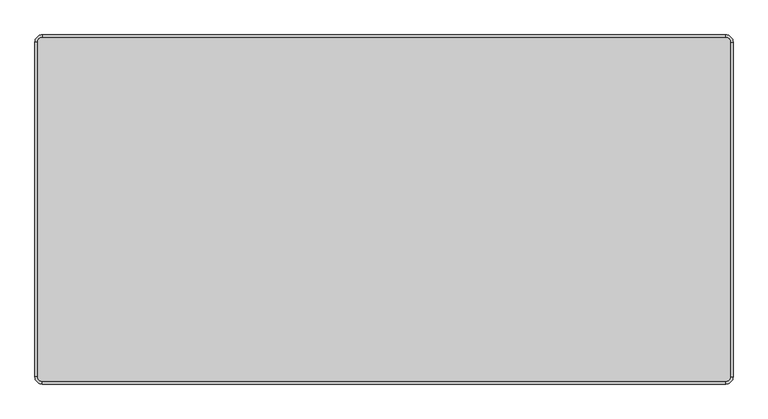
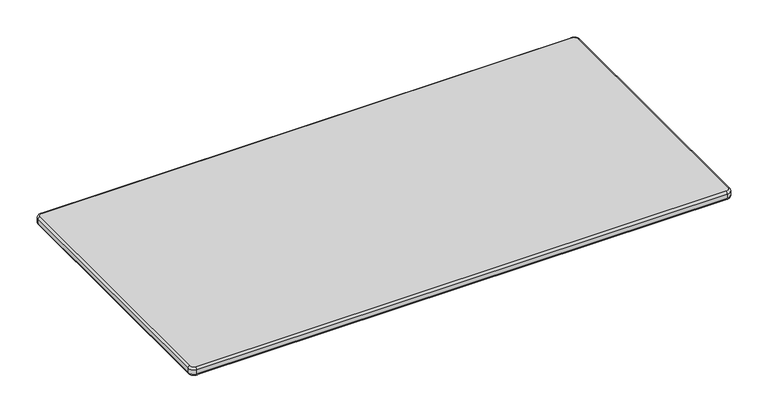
"""IFC4 building model written with IfcOpenShell, lengths in millimetres: furniture geometry, SSL-Childcraft_Outdoor-Table-Rectangle : 2161362."""

from ifc_helpers import new_model, si_unit, point, frame, origin, place, context, project, spatial, circle_curve, ellipse_curve, trimmed, source, transform, mapped, element, save
from ifc_brep_helpers import plane_surface, cylinder_surface, revolved_surface, advanced_brep


def furniture_5d3cc5c7(model_context):
    return source(origin(), model_context, "Body", "AdvancedBrep", [
        advanced_brep(
        [(604.8375, 292.1, 609.6), (596.9, 300.0375, 609.6), (-596.9, 300.0375, 609.6), (-604.8375, 292.1, 609.6), (-604.8375, -292.1, 609.6), (-596.9, -300.0375, 609.6), (596.9, -300.0375, 609.6), (604.8375, -292.1, 609.6), (596.9, 300.0375, 590.55), (604.8375, 292.1, 590.55), (604.8375, -292.1, 590.55), (596.9, -300.0375, 590.55), (-596.9, -300.0375, 590.55), (-604.8375, -292.1, 590.55), (-604.8375, 292.1, 590.55), (-596.9, 300.0375, 590.55), (609.6, 292.1, 595.3125), (609.6, 292.1, 604.8375), (609.6, -292.1, 604.8375), (609.6, -292.1, 595.3125), (596.9, -304.8, 595.3125), (596.9, -304.8, 604.8375), (-596.9, -304.8, 604.8375), (-596.9, -304.8, 595.3125), (-609.6, -292.1, 604.8375), (-609.6, -292.1, 595.3125), (-609.6, 292.1, 604.8375), (-609.6, 292.1, 595.3125), (-596.9, 304.8, 595.3125), (-596.9, 304.8, 604.8375), (596.9, 304.8, 604.8375), (596.9, 304.8, 595.3125)],
        [
            (0, 1, circle_curve(frame((596.9, 292.1, 609.6), z_axis=(0.0, 0.0, 1.0), x_axis=(0.0, 1.0, 0.0)), 7.9375)),
            (1, 2),
            (2, 3, circle_curve(frame((-596.9, 292.1, 609.6), z_axis=(0.0, 0.0, 1.0), x_axis=(-1.0, 0.0, 0.0)), 7.9375)),
            (3, 4),
            (4, 5, circle_curve(frame((-596.9, -292.1, 609.6), z_axis=(0.0, 0.0, 1.0), x_axis=(0.0, -1.0, 0.0)), 7.9375)),
            (5, 6),
            (6, 7, circle_curve(frame((596.9, -292.1, 609.6), z_axis=(0.0, 0.0, 1.0), x_axis=(1.0, 0.0, 0.0)), 7.9375)),
            (7, 0),
            (8, 9, circle_curve(frame((596.9, 292.1, 590.55), z_axis=(0.0, 0.0, -1.0), x_axis=(0.0, 1.0, 0.0)), 7.9375)),
            (9, 10),
            (10, 11, circle_curve(frame((596.9, -292.1, 590.55), z_axis=(0.0, 0.0, -1.0), x_axis=(1.0, 0.0, 0.0)), 7.9375)),
            (11, 12),
            (12, 13, circle_curve(frame((-596.9, -292.1, 590.55), z_axis=(0.0, 0.0, -1.0), x_axis=(0.0, -1.0, 0.0)), 7.9375)),
            (13, 14),
            (14, 15, circle_curve(frame((-596.9, 292.1, 590.55), z_axis=(0.0, 0.0, -1.0), x_axis=(-1.0, 0.0, 0.0)), 7.9375)),
            (15, 8),
            (16, 17),
            (17, 18),
            (18, 19),
            (19, 16),
            (20, 21),
            (21, 22),
            (22, 23),
            (23, 20),
            (22, 24, circle_curve(frame((-596.9, -292.1, 604.8375), z_axis=(0.0, 0.0, -1.0), x_axis=(0.0, -1.0, 0.0)), 12.7)),
            (24, 25),
            (25, 23, circle_curve(frame((-596.9, -292.1, 595.3125), z_axis=(0.0, 0.0, 1.0), x_axis=(0.0, -1.0, 0.0)), 12.7)),
            (24, 26),
            (26, 27),
            (27, 25),
            (28, 29),
            (29, 30),
            (30, 31),
            (31, 28),
            (17, 30, circle_curve(frame((596.9, 292.1, 604.8375), z_axis=(0.0, 0.0, 1.0), x_axis=(0.0, 1.0, 0.0)), 12.7)),
            (30, 1, circle_curve(frame((596.9, 300.0375, 604.8375), z_axis=(1.0, 0.0, 0.0), x_axis=(0.0, 1.0, 0.0)), 4.7625)),
            (0, 17, circle_curve(frame((604.8375, 292.1, 604.8375), z_axis=(0.0, 1.0, 0.0), x_axis=(1.0, 0.0, 0.0)), 4.7625)),
            (16, 31, circle_curve(frame((596.9, 292.1, 595.3125), z_axis=(0.0, 0.0, 1.0), x_axis=(0.0, 1.0, 0.0)), 12.7)),
            (16, 9, circle_curve(frame((604.8375, 292.1, 595.3125), z_axis=(0.0, 1.0, 0.0), x_axis=(1.0, 0.0, 0.0)), 4.7625)),
            (8, 31, circle_curve(frame((596.9, 300.0375, 595.3125), z_axis=(1.0, 0.0, 0.0), x_axis=(0.0, 1.0, 0.0)), 4.7625)),
            (7, 18, circle_curve(frame((604.8375, -292.1, 604.8375), z_axis=(0.0, 1.0, 0.0), x_axis=(1.0, 0.0, 0.0)), 4.7625)),
            (19, 10, circle_curve(frame((604.8375, -292.1, 595.3125), z_axis=(0.0, 1.0, 0.0), x_axis=(1.0, 0.0, 0.0)), 4.7625)),
            (6, 21, circle_curve(frame((596.9, -300.0375, 604.8375), z_axis=(1.0, 0.0, 0.0), x_axis=(0.0, -1.0, 0.0)), 4.7625)),
            (21, 18, circle_curve(frame((596.9, -292.1, 604.8375), z_axis=(0.0, 0.0, 1.0), x_axis=(1.0, 0.0, 0.0)), 12.7)),
            (20, 19, circle_curve(frame((596.9, -292.1, 595.3125), z_axis=(0.0, 0.0, 1.0), x_axis=(1.0, 0.0, 0.0)), 12.7)),
            (20, 11, circle_curve(frame((596.9, -300.0375, 595.3125), z_axis=(1.0, 0.0, 0.0), x_axis=(0.0, -1.0, 0.0)), 4.7625)),
            (5, 22, circle_curve(frame((-596.9, -300.0375, 604.8375), z_axis=(1.0, 0.0, 0.0), x_axis=(0.0, -1.0, 0.0)), 4.7625)),
            (23, 12, circle_curve(frame((-596.9, -300.0375, 595.3125), z_axis=(1.0, 0.0, 0.0), x_axis=(0.0, -1.0, 0.0)), 4.7625)),
            (4, 24, circle_curve(frame((-604.8375, -292.1, 604.8375), z_axis=(0.0, -1.0, 0.0), x_axis=(-1.0, 0.0, 0.0)), 4.7625)),
            (25, 13, circle_curve(frame((-604.8375, -292.1, 595.3125), z_axis=(0.0, -1.0, 0.0), x_axis=(-1.0, 0.0, 0.0)), 4.7625)),
            (3, 26, circle_curve(frame((-604.8375, 292.1, 604.8375), z_axis=(0.0, -1.0, 0.0), x_axis=(-1.0, 0.0, 0.0)), 4.7625)),
            (27, 14, circle_curve(frame((-604.8375, 292.1, 595.3125), z_axis=(0.0, -1.0, 0.0), x_axis=(-1.0, 0.0, 0.0)), 4.7625)),
            (2, 29, circle_curve(frame((-596.9, 300.0375, 604.8375), z_axis=(-1.0, 0.0, 0.0), x_axis=(0.0, 1.0, 0.0)), 4.7625)),
            (29, 26, circle_curve(frame((-596.9, 292.1, 604.8375), z_axis=(0.0, 0.0, 1.0), x_axis=(-1.0, 0.0, 0.0)), 12.7)),
            (28, 27, circle_curve(frame((-596.9, 292.1, 595.3125), z_axis=(0.0, 0.0, 1.0), x_axis=(-1.0, 0.0, 0.0)), 12.7)),
            (28, 15, circle_curve(frame((-596.9, 300.0375, 595.3125), z_axis=(-1.0, 0.0, 0.0), x_axis=(0.0, 1.0, 0.0)), 4.7625)),
        ],
        [
            plane_surface(frame((-596.9, 295.275, 609.6), z_axis=(0.0, 0.0, 1.0), x_axis=(-1.0, 0.0, 0.0))),
            plane_surface(frame((-596.9, 295.275, 590.55), z_axis=(0.0, 0.0, -1.0), x_axis=(1.0, 0.0, 0.0))),
            plane_surface(frame((609.6, 292.1, 604.8375), z_axis=(1.0, 0.0, 0.0), x_axis=(0.0, -1.0, 0.0))),
            plane_surface(frame((596.9, -304.8, 604.8375), z_axis=(0.0, -1.0, 0.0), x_axis=(-1.0, 0.0, 0.0))),
            cylinder_surface(frame((-596.9, -292.1, 0.0), z_axis=(0.0, 0.0, -1.0), x_axis=(0.0, -1.0, 0.0)), 12.7),
            plane_surface(frame((-609.6, -292.1, 604.8375), z_axis=(-1.0, 0.0, 0.0), x_axis=(0.0, 1.0, 0.0))),
            plane_surface(frame((-596.9, 304.8, 604.8375), z_axis=(0.0, 1.0, 0.0), x_axis=(1.0, 0.0, 0.0))),
            revolved_surface(trimmed(ellipse_curve(frame((596.9, 300.0375, 604.8375), z_axis=(-1.0, 0.0, 0.0), x_axis=(0.0, 1.0, 0.0)), 4.7625, 4.7625), [point((596.9, 300.0375, 609.6))], [point((596.9, 304.8, 604.8375))], True, "CARTESIAN"), (596.9, 292.1, 0.0), (0.0, 0.0, -1.0)),
            cylinder_surface(frame((596.9, 292.1, 0.0), z_axis=(0.0, 0.0, -1.0), x_axis=(0.0, 1.0, 0.0)), 12.7),
            revolved_surface(trimmed(ellipse_curve(frame((596.9, 300.0375, 595.3125), z_axis=(-1.0, 0.0, 0.0), x_axis=(0.0, 1.0, 0.0)), 4.7625, 4.7625), [point((596.9, 304.8, 595.3125))], [point((596.9, 300.0375, 590.55))], True, "CARTESIAN"), (596.9, 292.1, 0.0), (0.0, 0.0, -1.0)),
            cylinder_surface(frame((604.8375, 292.1, 604.8375), z_axis=(0.0, 1.0, 0.0), x_axis=(1.0, 0.0, 0.0)), 4.7625),
            cylinder_surface(frame((604.8375, 292.1, 595.3125), z_axis=(0.0, 1.0, 0.0), x_axis=(1.0, 0.0, 0.0)), 4.7625),
            revolved_surface(trimmed(ellipse_curve(frame((604.8375, -292.1, 604.8375), z_axis=(0.0, 1.0, 0.0), x_axis=(1.0, 0.0, 0.0)), 4.7625, 4.7625), [point((604.8375, -292.1, 609.6))], [point((609.6, -292.1, 604.8375))], True, "CARTESIAN"), (596.9, -292.1, 0.0), (0.0, 0.0, -1.0)),
            cylinder_surface(frame((596.9, -292.1, 0.0), z_axis=(0.0, 0.0, -1.0), x_axis=(1.0, 0.0, 0.0)), 12.7),
            revolved_surface(trimmed(ellipse_curve(frame((604.8375, -292.1, 595.3125), z_axis=(0.0, 1.0, 0.0), x_axis=(1.0, 0.0, 0.0)), 4.7625, 4.7625), [point((609.6, -292.1, 595.3125))], [point((604.8375, -292.1, 590.55))], True, "CARTESIAN"), (596.9, -292.1, 0.0), (0.0, 0.0, -1.0)),
            cylinder_surface(frame((596.9, -300.0375, 604.8375), z_axis=(1.0, 0.0, 0.0), x_axis=(0.0, -1.0, 0.0)), 4.7625),
            cylinder_surface(frame((596.9, -300.0375, 595.3125), z_axis=(1.0, 0.0, 0.0), x_axis=(0.0, -1.0, 0.0)), 4.7625),
            revolved_surface(trimmed(ellipse_curve(frame((-596.9, -300.0375, 604.8375), z_axis=(1.0, 0.0, 0.0), x_axis=(0.0, -1.0, 0.0)), 4.7625, 4.7625), [point((-596.9, -300.0375, 609.6))], [point((-596.9, -304.8, 604.8375))], True, "CARTESIAN"), (-596.9, -292.1, 0.0), (0.0, 0.0, -1.0)),
            revolved_surface(trimmed(ellipse_curve(frame((-596.9, -300.0375, 595.3125), z_axis=(1.0, 0.0, 0.0), x_axis=(0.0, -1.0, 0.0)), 4.7625, 4.7625), [point((-596.9, -304.8, 595.3125))], [point((-596.9, -300.0375, 590.55))], True, "CARTESIAN"), (-596.9, -292.1, 0.0), (0.0, 0.0, -1.0)),
            cylinder_surface(frame((-604.8375, -292.1, 604.8375), z_axis=(0.0, -1.0, 0.0), x_axis=(-1.0, 0.0, 0.0)), 4.7625),
            cylinder_surface(frame((-604.8375, -292.1, 595.3125), z_axis=(0.0, -1.0, 0.0), x_axis=(-1.0, 0.0, 0.0)), 4.7625),
            revolved_surface(trimmed(ellipse_curve(frame((-604.8375, 292.1, 604.8375), z_axis=(0.0, -1.0, 0.0), x_axis=(-1.0, 0.0, 0.0)), 4.7625, 4.7625), [point((-604.8375, 292.1, 609.6))], [point((-609.6, 292.1, 604.8375))], True, "CARTESIAN"), (-596.9, 292.1, 0.0), (0.0, 0.0, -1.0)),
            cylinder_surface(frame((-596.9, 292.1, 0.0), z_axis=(0.0, 0.0, -1.0), x_axis=(-1.0, 0.0, 0.0)), 12.7),
            revolved_surface(trimmed(ellipse_curve(frame((-604.8375, 292.1, 595.3125), z_axis=(0.0, -1.0, 0.0), x_axis=(-1.0, 0.0, 0.0)), 4.7625, 4.7625), [point((-609.6, 292.1, 595.3125))], [point((-604.8375, 292.1, 590.55))], True, "CARTESIAN"), (-596.9, 292.1, 0.0), (0.0, 0.0, -1.0)),
            cylinder_surface(frame((-596.9, 300.0375, 604.8375), z_axis=(-1.0, 0.0, 0.0), x_axis=(0.0, 1.0, 0.0)), 4.7625),
            cylinder_surface(frame((-596.9, 300.0375, 595.3125), z_axis=(-1.0, 0.0, 0.0), x_axis=(0.0, 1.0, 0.0)), 4.7625),
        ],
        [
            (0, [[1, 2, 3, 4, 5, 6, 7, 8]]),
            (1, [[9, 10, 11, 12, 13, 14, 15, 16]]),
            (2, [[17, 18, 19, 20]]),
            (3, [[21, 22, 23, 24]]),
            (4, [[-23, 25, 26, 27]]),
            (5, [[-26, 28, 29, 30]]),
            (6, [[31, 32, 33, 34]]),
            (7, [[35, 36, -1, 37]]),
            (8, [[-17, 38, -33, -35]]),
            (9, [[-38, 39, -9, 40]]),
            (10, [[-18, -37, -8, 41]]),
            (11, [[-20, 42, -10, -39]]),
            (12, [[-41, -7, 43, 44]]),
            (13, [[-19, -44, -21, 45]]),
            (14, [[-42, -45, 46, -11]]),
            (15, [[-22, -43, -6, 47]]),
            (16, [[-24, 48, -12, -46]]),
            (17, [[-25, -47, -5, 49]]),
            (18, [[-27, 50, -13, -48]]),
            (19, [[-28, -49, -4, 51]]),
            (20, [[-30, 52, -14, -50]]),
            (21, [[-51, -3, 53, 54]]),
            (22, [[-29, -54, -31, 55]]),
            (23, [[-52, -55, 56, -15]]),
            (24, [[-32, -53, -2, -36]]),
            (25, [[-34, -40, -16, -56]]),
        ],
    ),
    ])


if __name__ == "__main__":
    model = new_model("IFC4")
    model_context = context("Model", 3, world=origin())
    ifc_project = project(units=[si_unit("LENGTHUNIT", "METRE", prefix="MILLI")], contexts=[model_context])
    site = spatial("IfcSite", under=ifc_project)
    building = spatial("IfcBuilding", under=site)
    placement = place(None, origin())
    furniture_shape = furniture_5d3cc5c7(model_context)
    element("IfcFurniture", 1, ObjectType="SSL-Childcraft_Outdoor-Table-Rectangle : 2161362", at=placement, inside=building, context=model_context, shape_type="MappedRepresentation", body=[
        mapped(furniture_shape, transform((0.0, 0.0, 0.0), x_axis=(1.0, 0.0, 0.0), y_axis=(0.0, 1.0, 0.0), z_axis=(0.0, 0.0, 1.0))),
    ])
    save(model, "model.ifc")
